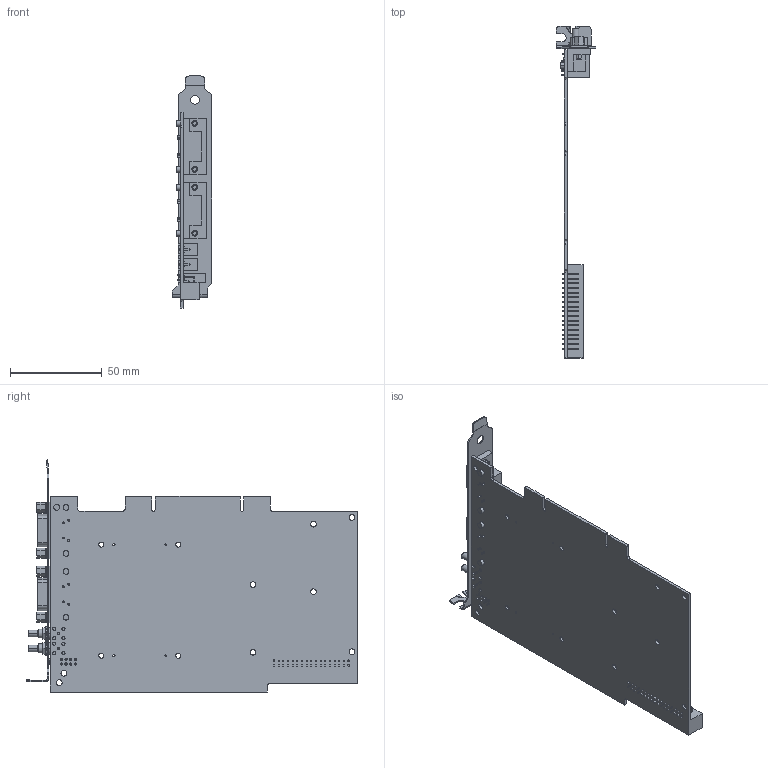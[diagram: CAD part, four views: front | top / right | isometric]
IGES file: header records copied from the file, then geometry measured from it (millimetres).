
Start section:  PTC IGES file: cu_pci-8517.igs
Global section: file name: cu_pci-8517.igs; native system: Pro/ENGINEER by Parametric Technology Corporation; preprocessor: 2006080; author: dcrowder; organization: Unknown; date: 090219.133837; units: inch
Bounding box: 21.59 x 180.79 x 126.37 mm (x, y, z)
Surface area: 48283.8 mm2 (no closed solid volume)
Topology: 0 solids, 0 shells, 1472 faces, 7846 edges, 7846 vertices
Faces by surface type: bspline 1017, revolution 455
